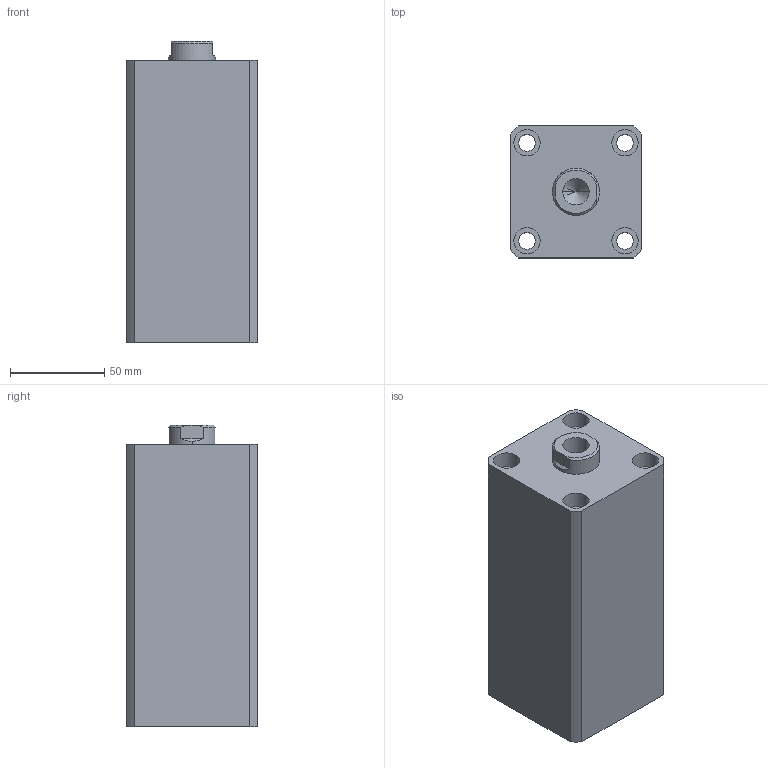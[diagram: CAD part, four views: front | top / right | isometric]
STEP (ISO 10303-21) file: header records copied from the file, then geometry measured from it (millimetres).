
FILE_DESCRIPTION (( 'STEP AP203' ), '1' );
FILE_NAME ('HTB-SDMB40-95N.STEP', '2019-10-09T02:21:34', ( '微软用户' ), ( '微软中国' ), 'SwSTEP 2.0', 'SolidWorks 2012', '' );
FILE_SCHEMA (( 'CONFIG_CONTROL_DESIGN' ));
Length unit declared in the file: millimetre
Products named in the file (3): HTB-SDMB40-95N; HTB-SDMB40-95N活塞杆; HTB-SDMB40-95掛极
Assembly tree (2 placements, depth 2):
  HTB-SDMB40-95N
    HTB-SDMB40-95掛极
    HTB-SDMB40-95N活塞杆
Bounding box: 70 x 70 x 160 mm (x, y, z)
Volume: 612338.3 mm3; surface area: 102170 mm2
Topology: 2 solids, 2 shells, 137 faces, 331 edges, 217 vertices
Faces by surface type: plane 65, cylinder 46, bspline 16, torus 6, cone 4
Entity records: 5074 total; most frequent: CARTESIAN_POINT 1580, ORIENTED_EDGE 658, DIRECTION 647, EDGE_CURVE 329, AXIS2_PLACEMENT_3D 232, VERTEX_POINT 217, LINE 183, VECTOR 183
